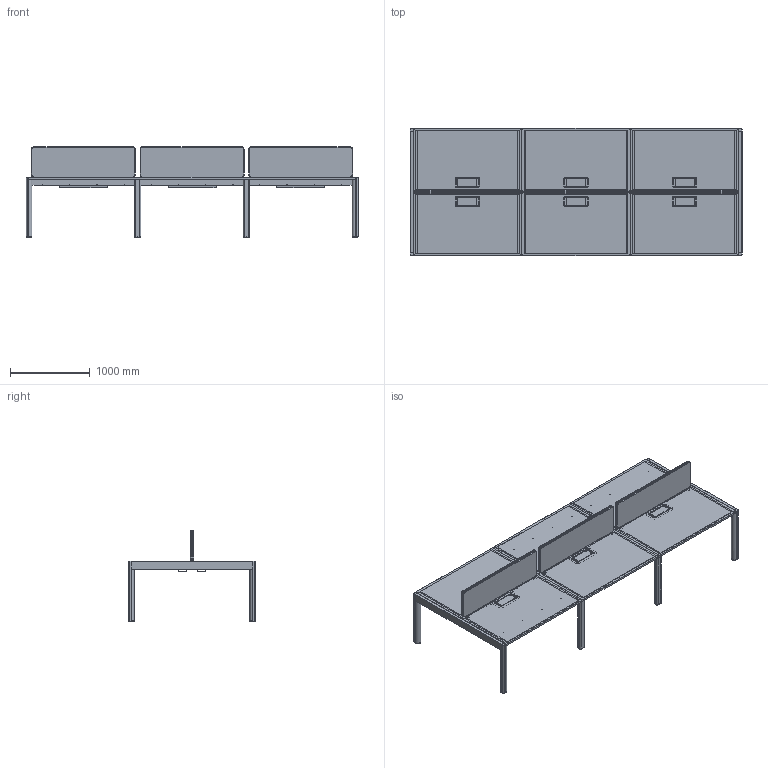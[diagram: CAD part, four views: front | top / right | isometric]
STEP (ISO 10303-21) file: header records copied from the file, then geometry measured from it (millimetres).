
FILE_DESCRIPTION( ('This file contains a STEP AP42 implementation' ,'as created by ZW3D STEP Interface translator.') ,'2;1' );
FILE_NAME( 'Rive - Bench 6 postes - 420x160x75.stp' ,'24 913. 818 6', (''), ('ZWCAD Software Co.'), 'Version 1.0', 'ZW3D to STEP translator', '' );
FILE_SCHEMA(('AUTOMOTIVE_DESIGN { 1 0 10303 214 1 1 1 1 }'));
Length unit declared in the file: millimetre
Products named in the file (23): 0; Chêne_Bench V_G 6 Postes 4200_1600; traverse côté gauche 75; traverse côté droit 75; traverse façade fixe; Trappes Pivot Clips Bois; Insert_trappe; Trappes; BOITIER SUPPORT NYLON D15; TAQUET DROIT; 230328-01_Goulottes_Bench_600; Ferrure assemblage plan de travail TCASYTSTEM; Cloison & Quincaillerie; Cloison Passepoil; insert_m8_23; Rondelle_M8_31; vis_CPHC_8x50_1; pied dos droit 75_1_Miroir_3; plateau1; pied dos droit 75_1_Miroir_2; Ferrure assemblage plan de travail TCASYTSTEM_1_Miroir; pied dos droit 75_1_Miroir_3_1_Miroir; pied dos droit 75_1_Miroir_2_Miroir
Assembly tree (55 placements, depth 3):
  0
  Chêne_Bench V_G 6 Postes 4200_1600
    traverse côté gauche 75  x2
    traverse côté droit 75  x2
    traverse façade fixe  x6
    Trappes Pivot Clips Bois  x6
      Insert_trappe
      Trappes
      BOITIER SUPPORT NYLON D15
      TAQUET DROIT
    230328-01_Goulottes_Bench_600  x6
    Ferrure assemblage plan de travail TCASYTSTEM  x2
    Cloison & Quincaillerie  x3
      Cloison Passepoil
      insert_m8_23
      Rondelle_M8_31
      vis_CPHC_8x50_1
    pied dos droit 75_1_Miroir_3  x2
    plateau1  x3
    pied dos droit 75_1_Miroir_2  x2
    Ferrure assemblage plan de travail TCASYTSTEM_1_Miroir
    pied dos droit 75_1_Miroir_3_1_Miroir  x2
    pied dos droit 75_1_Miroir_2_Miroir  x2
Bounding box: 4160 x 1600 x 1135.5 mm (x, y, z)
Volume: 285055512.3 mm3; surface area: 39316060.5 mm2
Topology: 153 solids, 153 shells, 3594 faces, 8478 edges, 5352 vertices
Faces by surface type: plane 2079, cylinder 1061, cone 277, bspline 106, torus 71
Full cylindrical faces by diameter (mm): 5 x24, 7 x6, 8 x152, 8.5 x9, 9 x44, 10 x74, 12 x8, 16 x24, 17 x33, 25 x7, 30 x9, 35.6 x4, 45 x30
Entity records: 31089 total; most frequent: CARTESIAN_POINT 6745, DIRECTION 4720, ORIENTED_EDGE 4262, EDGE_CURVE 2131, AXIS2_PLACEMENT_3D 1640, VECTOR 1440, LINE 1440, VERTEX_POINT 1350
